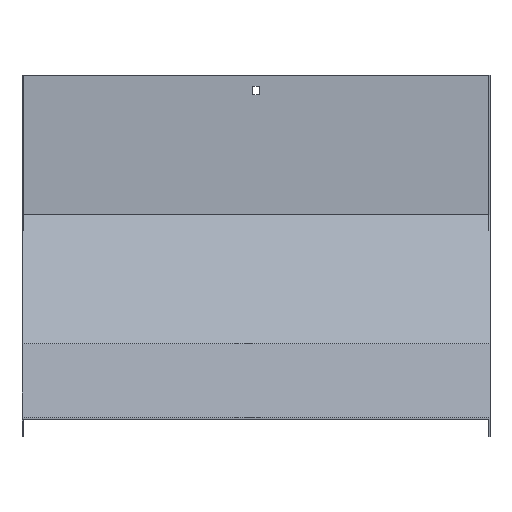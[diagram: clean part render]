
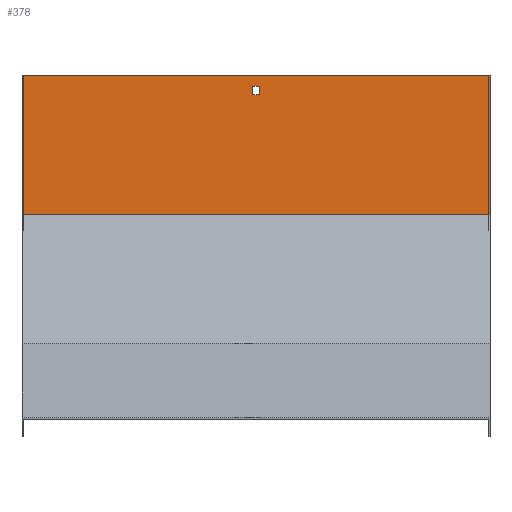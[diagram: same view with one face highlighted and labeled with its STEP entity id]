
A CAD part, top view. The second image highlights one B-rep face of the part: STEP entity #378.
In plain terms, the highlighted planar face has unit normal (0, 0, 1).
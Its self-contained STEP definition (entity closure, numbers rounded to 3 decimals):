
#31 = LINE ( 'NONE', #512, #707 ) ;
#35 = VERTEX_POINT ( 'NONE', #976 ) ;
#50 = CARTESIAN_POINT ( 'NONE',  ( 251.5, 368.947, -368.947 ) ) ;
#56 = CARTESIAN_POINT ( 'NONE',  ( -251.5, 219.247, -368.947 ) ) ;
#71 = VECTOR ( 'NONE', #423, 1000. ) ;
#75 = CARTESIAN_POINT ( 'NONE',  ( -3.25, 356.947, -368.947 ) ) ;
#83 = CARTESIAN_POINT ( 'NONE',  ( 3.25, 356.947, -368.947 ) ) ;
#110 = CARTESIAN_POINT ( 'NONE',  ( 3.25, 347.947, -368.947 ) ) ;
#125 = VERTEX_POINT ( 'NONE', #492 ) ;
#134 = VECTOR ( 'NONE', #526, 1000. ) ;
#150 = ORIENTED_EDGE ( 'NONE', *, *, #907, .T. ) ;
#170 = LINE ( 'NONE', #83, #898 ) ;
#209 = VERTEX_POINT ( 'NONE', #414 ) ;
#211 = LINE ( 'NONE', #749, #822 ) ;
#214 = DIRECTION ( 'NONE',  ( 0., 1., 0. ) ) ;
#219 = DIRECTION ( 'NONE',  ( 0., 1., 0. ) ) ;
#222 = EDGE_LOOP ( 'NONE', ( #973, #796, #150, #557 ) ) ;
#224 = CARTESIAN_POINT ( 'NONE',  ( -3.25, 347.947, -368.947 ) ) ;
#231 = EDGE_LOOP ( 'NONE', ( #756, #729, #772, #329 ) ) ;
#247 = VECTOR ( 'NONE', #357, 1000. ) ;
#270 = VECTOR ( 'NONE', #219, 1000. ) ;
#277 = EDGE_CURVE ( 'NONE', #712, #641, #31, .T. ) ;
#289 = LINE ( 'NONE', #968, #879 ) ;
#293 = DIRECTION ( 'NONE',  ( 0., 1., 0. ) ) ;
#316 = DIRECTION ( 'NONE',  ( 1., 0., 0. ) ) ;
#329 = ORIENTED_EDGE ( 'NONE', *, *, #411, .F. ) ;
#352 = VERTEX_POINT ( 'NONE', #50 ) ;
#357 = DIRECTION ( 'NONE',  ( 1., 0., 0. ) ) ;
#366 = EDGE_CURVE ( 'NONE', #920, #35, #211, .T. ) ;
#371 = FACE_BOUND ( 'NONE', #231, .T. ) ;
#378 = ADVANCED_FACE ( 'NONE', ( #371, #970 ), #518, .T. ) ;
#394 = CARTESIAN_POINT ( 'NONE',  ( -251.5, 219.247, -368.947 ) ) ;
#411 = EDGE_CURVE ( 'NONE', #35, #441, #170, .T. ) ;
#414 = CARTESIAN_POINT ( 'NONE',  ( -3.25, 347.947, -368.947 ) ) ;
#423 = DIRECTION ( 'NONE',  ( -1., 0., 0. ) ) ;
#425 = DIRECTION ( 'NONE',  ( -1., 0., 0. ) ) ;
#441 = VERTEX_POINT ( 'NONE', #75 ) ;
#453 = DIRECTION ( 'NONE',  ( -1., 0., 0. ) ) ;
#472 = EDGE_CURVE ( 'NONE', #441, #209, #600, .T. ) ;
#492 = CARTESIAN_POINT ( 'NONE',  ( -251.5, 368.947, -368.947 ) ) ;
#512 = CARTESIAN_POINT ( 'NONE',  ( 251.5, 219.247, -368.947 ) ) ;
#518 = PLANE ( 'NONE',  #624 ) ;
#526 = DIRECTION ( 'NONE',  ( 0., -1., 0. ) ) ;
#557 = ORIENTED_EDGE ( 'NONE', *, *, #859, .T. ) ;
#593 = EDGE_CURVE ( 'NONE', #209, #920, #799, .T. ) ;
#600 = LINE ( 'NONE', #224, #134 ) ;
#624 = AXIS2_PLACEMENT_3D ( 'NONE', #845, #763, #316 ) ;
#641 = VERTEX_POINT ( 'NONE', #394 ) ;
#657 = CARTESIAN_POINT ( 'NONE',  ( 251.5, 368.947, -368.947 ) ) ;
#669 = LINE ( 'NONE', #56, #270 ) ;
#707 = VECTOR ( 'NONE', #425, 1000. ) ;
#712 = VERTEX_POINT ( 'NONE', #768 ) ;
#729 = ORIENTED_EDGE ( 'NONE', *, *, #593, .F. ) ;
#749 = CARTESIAN_POINT ( 'NONE',  ( 3.25, 347.947, -368.947 ) ) ;
#756 = ORIENTED_EDGE ( 'NONE', *, *, #366, .F. ) ;
#763 = DIRECTION ( 'NONE',  ( 0., 0., 1. ) ) ;
#768 = CARTESIAN_POINT ( 'NONE',  ( 251.5, 219.247, -368.947 ) ) ;
#772 = ORIENTED_EDGE ( 'NONE', *, *, #472, .F. ) ;
#796 = ORIENTED_EDGE ( 'NONE', *, *, #277, .F. ) ;
#799 = LINE ( 'NONE', #110, #247 ) ;
#821 = LINE ( 'NONE', #657, #71 ) ;
#822 = VECTOR ( 'NONE', #214, 1000. ) ;
#845 = CARTESIAN_POINT ( 'NONE',  ( 251.5, 219.247, -368.947 ) ) ;
#859 = EDGE_CURVE ( 'NONE', #352, #125, #821, .T. ) ;
#879 = VECTOR ( 'NONE', #293, 1000. ) ;
#898 = VECTOR ( 'NONE', #453, 1000. ) ;
#907 = EDGE_CURVE ( 'NONE', #712, #352, #289, .T. ) ;
#920 = VERTEX_POINT ( 'NONE', #971 ) ;
#962 = EDGE_CURVE ( 'NONE', #641, #125, #669, .T. ) ;
#968 = CARTESIAN_POINT ( 'NONE',  ( 251.5, 219.247, -368.947 ) ) ;
#970 = FACE_OUTER_BOUND ( 'NONE', #222, .T. ) ;
#971 = CARTESIAN_POINT ( 'NONE',  ( 3.25, 347.947, -368.947 ) ) ;
#973 = ORIENTED_EDGE ( 'NONE', *, *, #962, .F. ) ;
#976 = CARTESIAN_POINT ( 'NONE',  ( 3.25, 356.947, -368.947 ) ) ;
